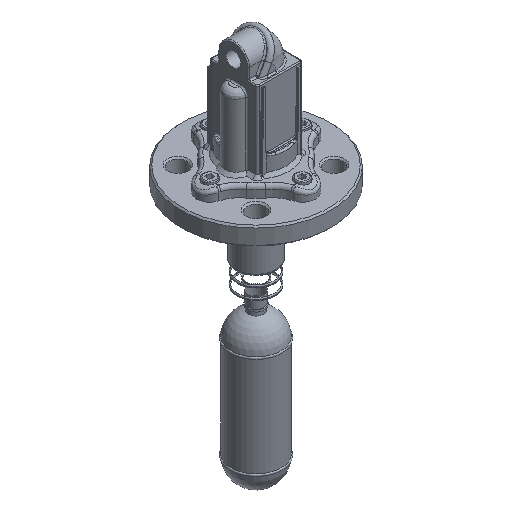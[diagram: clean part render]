
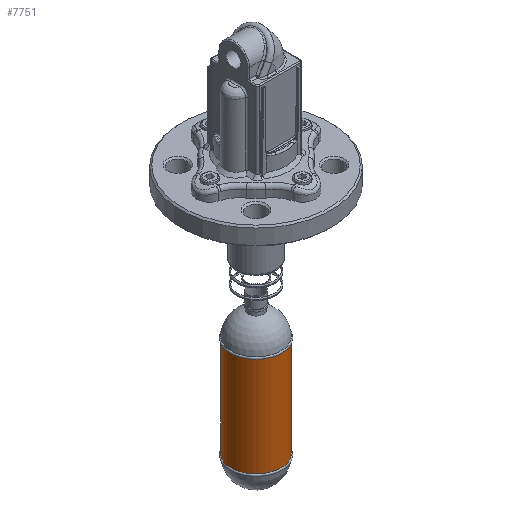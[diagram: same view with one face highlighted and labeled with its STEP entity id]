
A CAD part, isometric view. The second image highlights one B-rep face of the part: STEP entity #7751.
In plain terms, the highlighted cylindrical face has radius 25 mm (diameter 50 mm), a full revolution.
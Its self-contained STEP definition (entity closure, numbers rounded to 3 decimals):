
#420=CYLINDRICAL_SURFACE('',#8306,25.);
#637=CIRCLE('',#8307,25.);
#638=CIRCLE('',#8308,25.);
#639=CIRCLE('',#8309,25.);
#640=CIRCLE('',#8310,25.);
#1518=FACE_OUTER_BOUND('',#1983,.T.);
#1983=EDGE_LOOP('',(#5455,#5456,#5457,#5458,#5459,#5460));
#2457=LINE('',#11658,#2922);
#2922=VECTOR('',#9376,25.);
#3429=VERTEX_POINT('',#11653);
#3430=VERTEX_POINT('',#11654);
#3431=VERTEX_POINT('',#11657);
#3432=VERTEX_POINT('',#11659);
#4194=EDGE_CURVE('',#3429,#3430,#637,.T.);
#4195=EDGE_CURVE('',#3430,#3429,#638,.T.);
#4196=EDGE_CURVE('',#3429,#3431,#2457,.T.);
#4197=EDGE_CURVE('',#3431,#3432,#639,.T.);
#4198=EDGE_CURVE('',#3432,#3431,#640,.T.);
#5455=ORIENTED_EDGE('',*,*,#4194,.T.);
#5456=ORIENTED_EDGE('',*,*,#4195,.T.);
#5457=ORIENTED_EDGE('',*,*,#4196,.T.);
#5458=ORIENTED_EDGE('',*,*,#4197,.T.);
#5459=ORIENTED_EDGE('',*,*,#4198,.T.);
#5460=ORIENTED_EDGE('',*,*,#4196,.F.);
#7751=ADVANCED_FACE('',(#1518),#420,.T.);
#8306=AXIS2_PLACEMENT_3D('',#11652,#9370,#9371);
#8307=AXIS2_PLACEMENT_3D('',#11655,#9372,#9373);
#8308=AXIS2_PLACEMENT_3D('',#11656,#9374,#9375);
#8309=AXIS2_PLACEMENT_3D('',#11660,#9377,#9378);
#8310=AXIS2_PLACEMENT_3D('',#11661,#9379,#9380);
#9370=DIRECTION('center_axis',(0.,0.,
1.));
#9371=DIRECTION('ref_axis',(0.,-1.,0.));
#9372=DIRECTION('center_axis',(0.,0.,
-1.));
#9373=DIRECTION('ref_axis',(0.,-1.,0.));
#9374=DIRECTION('center_axis',(0.,0.,
-1.));
#9375=DIRECTION('ref_axis',(0.,-1.,0.));
#9376=DIRECTION('',(0.,0.,-1.));
#9377=DIRECTION('center_axis',(0.,0.,
1.));
#9378=DIRECTION('ref_axis',(0.,-1.,0.));
#9379=DIRECTION('center_axis',(0.,0.,
1.));
#9380=DIRECTION('ref_axis',(0.,-1.,0.));
#11652=CARTESIAN_POINT('Origin',(0.,0.,
-254.));
#11653=CARTESIAN_POINT('',(0.,25.,-154.));
#11654=CARTESIAN_POINT('',(0.,-25.,-154.));
#11655=CARTESIAN_POINT('Origin',(0.,0.,
-154.));
#11656=CARTESIAN_POINT('Origin',(0.,0.,
-154.));
#11657=CARTESIAN_POINT('',(0.,25.,-253.));
#11658=CARTESIAN_POINT('',(0.,25.,-254.));
#11659=CARTESIAN_POINT('',(0.,-25.,-253.));
#11660=CARTESIAN_POINT('Origin',(0.,0.,
-253.));
#11661=CARTESIAN_POINT('Origin',(0.,0.,
-253.));
